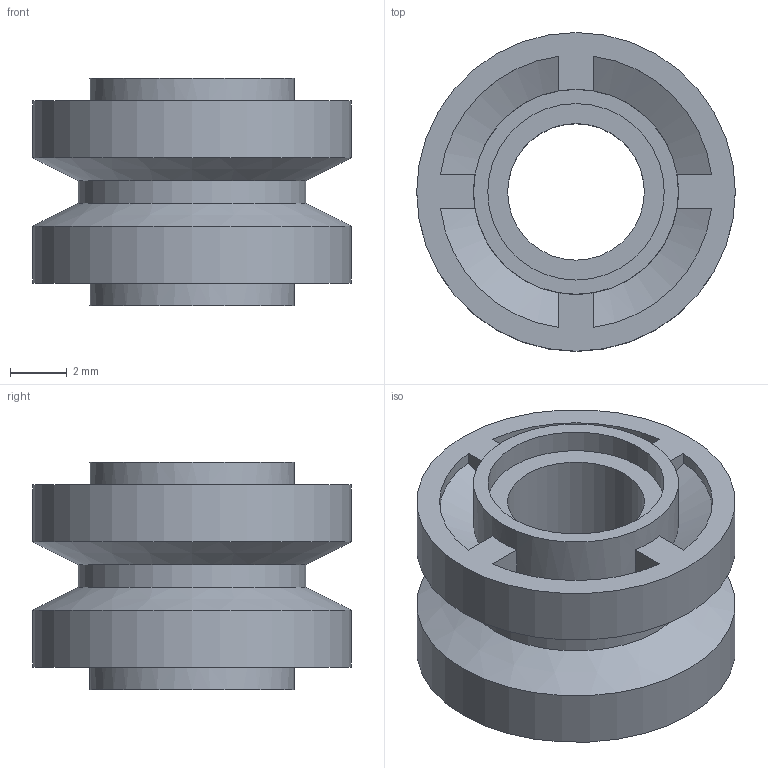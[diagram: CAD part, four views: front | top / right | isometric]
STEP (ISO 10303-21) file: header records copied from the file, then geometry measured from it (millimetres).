
FILE_DESCRIPTION(/* description */ ('Unknown'),/* implementation_level */ '2;1');
FILE_NAME(/* name */ 'ClGray_4211758_AVV',/* time_stamp */ '2025-07-21T23:52:48+02:00',/* author */ ('Unknown'),/* organization */ ('Unknown'),/* preprocessor_version */ 'ST-DEVELOPER v19.4',/* originating_system */ 'Solid Edge',/* authorisation */ 'Unknown');
FILE_SCHEMA (('AUTOMOTIVE_DESIGN {1 0 10303 214 3 1 1}'));
Length unit declared in the file: millimetre
Products named in the file (1): ClGray_4211758_AVV
Bounding box: 11.2 x 11.2 x 8 mm (x, y, z)
Volume: 416.9 mm3; surface area: 669 mm2
Topology: 1 solids, 1 shells, 48 faces, 122 edges, 80 vertices
Faces by surface type: plane 22, cylinder 16, cone 10
Full cylindrical faces by diameter (mm): 4.8 x1, 6.2 x2, 7.2 x2, 8 x1, 11.2 x2
Entity records: 1442 total; most frequent: CARTESIAN_POINT 285, DIRECTION 238, ORIENTED_EDGE 220, EDGE_CURVE 110, AXIS2_PLACEMENT_3D 95, VERTEX_POINT 78, EDGE_LOOP 64, FACE_BOUND 64
